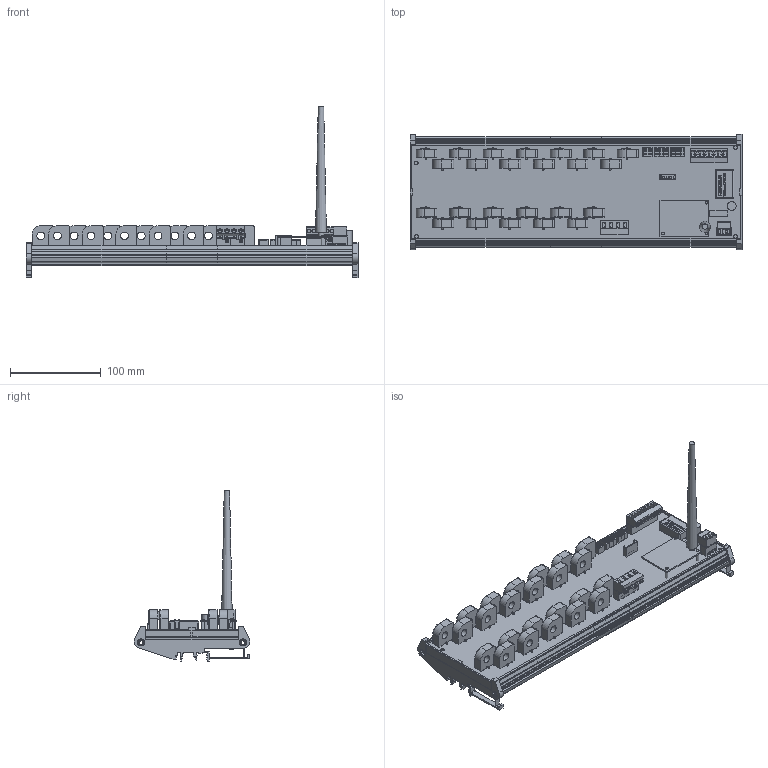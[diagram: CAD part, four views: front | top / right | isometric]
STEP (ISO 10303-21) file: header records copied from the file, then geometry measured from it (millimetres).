
FILE_DESCRIPTION(('FreeCAD Model'),'2;1');
FILE_NAME('C:/3D Files/Stringhe/ST0HS/ST0HS24xx WR/ST0HS24xx WR.step', '2023-01-13T12:26:25',('Author'),(''), 'Open CASCADE STEP processor 7.3','FreeCAD','Unknown');
FILE_SCHEMA(('AUTOMOTIVE_DESIGN { 1 0 10303 214 1 1 1 1 }'));
Length unit declared in the file: millimetre
Products named in the file (49): ST0HS24xx_WR; AmpModu_6P_M; DipSwitch4; IB2405LS-1W; WRB2403ZP-6WR003; ELNA_470_uF_35_V; Mstb_03P_F; Mstb_03Pc_M; SH04-7,62; PV02-7,62-V-Pa; PV02-7,62-V-Pb; Mstb_8P_F; Mstb_8Pc_M; CHK-LSP5S2L-BP-CH_01; CHK-LSP5S2L-BP-CH_02; CHK-LSP5S2L-BP-CH_03; CHK-LSP5S2L-BP-CH_04; CHK-LSP5S2L-BP-CH_05; CHK-LSP5S2L-BP-CH_06; CHK-LSP5S2L-BP-CH_07; CHK-LSP5S2L-BP-CH_08; CHK-LSP5S2L-BP-CH_09; CHK-LSP5S2L-BP-CH_10; CHK-LSP5S2L-BP-CH_11; CHK-LSP5S2L-BP-CH_12; CHK-LSP5S2L-BP-CH_13; CHK-LSP5S2L-BP-CH_14; CHK-LSP5S2L-BP-CH_15; CHK-LSP5S2L-BP-CH_16; CHK-LSP5S2L-BP-CH_17; CHK-LSP5S2L-BP-CH_18; CHK-LSP5S2L-BP-CH_19; CHK-LSP5S2L-BP-CH_20; DipSwitch005; DipSwitch006; DipSwitch007; DipSwitch008; Spacer-001; Spacer-002; Spacer-003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
Assembly tree (48 placements, depth 2):
  ST0HS24xx_WR
    AmpModu_6P_M
    DipSwitch4
    IB2405LS-1W
    WRB2403ZP-6WR003
    ELNA_470_uF_35_V
    Mstb_03P_F
    Mstb_03Pc_M
    SH04-7,62
    PV02-7,62-V-Pa
    PV02-7,62-V-Pb
    Mstb_8P_F
    Mstb_8Pc_M
    CHK-LSP5S2L-BP-CH_01
    CHK-LSP5S2L-BP-CH_02
    CHK-LSP5S2L-BP-CH_03
    CHK-LSP5S2L-BP-CH_04
    CHK-LSP5S2L-BP-CH_05
    CHK-LSP5S2L-BP-CH_06
    CHK-LSP5S2L-BP-CH_07
    CHK-LSP5S2L-BP-CH_08
    CHK-LSP5S2L-BP-CH_09
    CHK-LSP5S2L-BP-CH_10
    CHK-LSP5S2L-BP-CH_11
    CHK-LSP5S2L-BP-CH_12
    CHK-LSP5S2L-BP-CH_13
    CHK-LSP5S2L-BP-CH_14
    CHK-LSP5S2L-BP-CH_15
    CHK-LSP5S2L-BP-CH_16
    CHK-LSP5S2L-BP-CH_17
    CHK-LSP5S2L-BP-CH_18
    CHK-LSP5S2L-BP-CH_19
    CHK-LSP5S2L-BP-CH_20
    DipSwitch005
    DipSwitch006
    DipSwitch007
    DipSwitch008
    Spacer-001
    Spacer-002
    Spacer-003
    Antenna
    Base_Antenna
    E108_Module
    Profilo_366,2x128
    Stampato_362,2_x_108
    CHK-LSP5S2L-BP-CH_021
    CHK-LSP5S2L-BP-CH_022
    CHK-LSP5S2L-BP-CH_023
    CHK-LSP5S2L-BP-CH_024
Bounding box: 366.2 x 127.59 x 188.79 mm (x, y, z)
Volume: 359950.3 mm3; surface area: 373653.2 mm2
Topology: 63 solids, 102 shells, 7153 faces, 24766 edges, 33792 vertices
Faces by surface type: plane 5356, cylinder 1204, bspline 296, torus 224, cone 42, sphere 28, extrusion 3
Full cylindrical faces by diameter (mm): 0.5 x4, 0.75 x52, 1 x10, 1.5 x8, 1.6 x7, 3.1 x3, 3.8 x4, 4 x19, 4.3 x4, 6 x1, 7.9 x4, 9.202 x4, 10 x1
Entity records: 566690 total; most frequent: CARTESIAN_POINT 143719, DIRECTION 73018, VECTOR 50850, LINE 50847, ORIENTED_EDGE 38277, PCURVE 38277, DEFINITIONAL_REPRESENTATION 38277, EDGE_CURVE 19501
